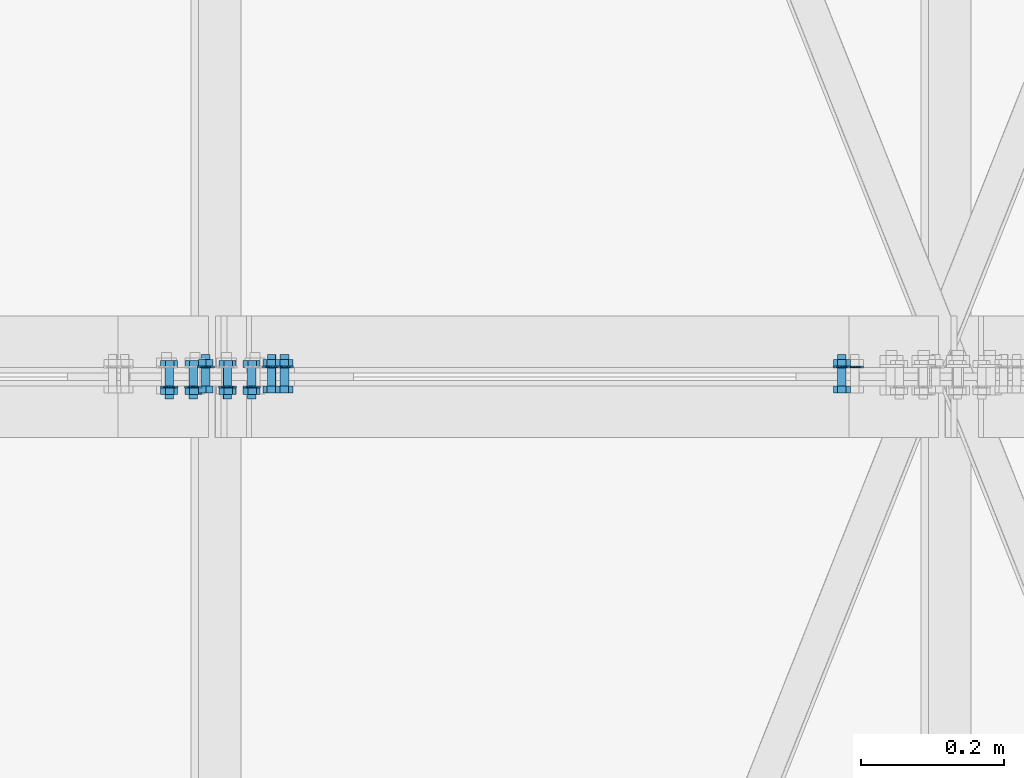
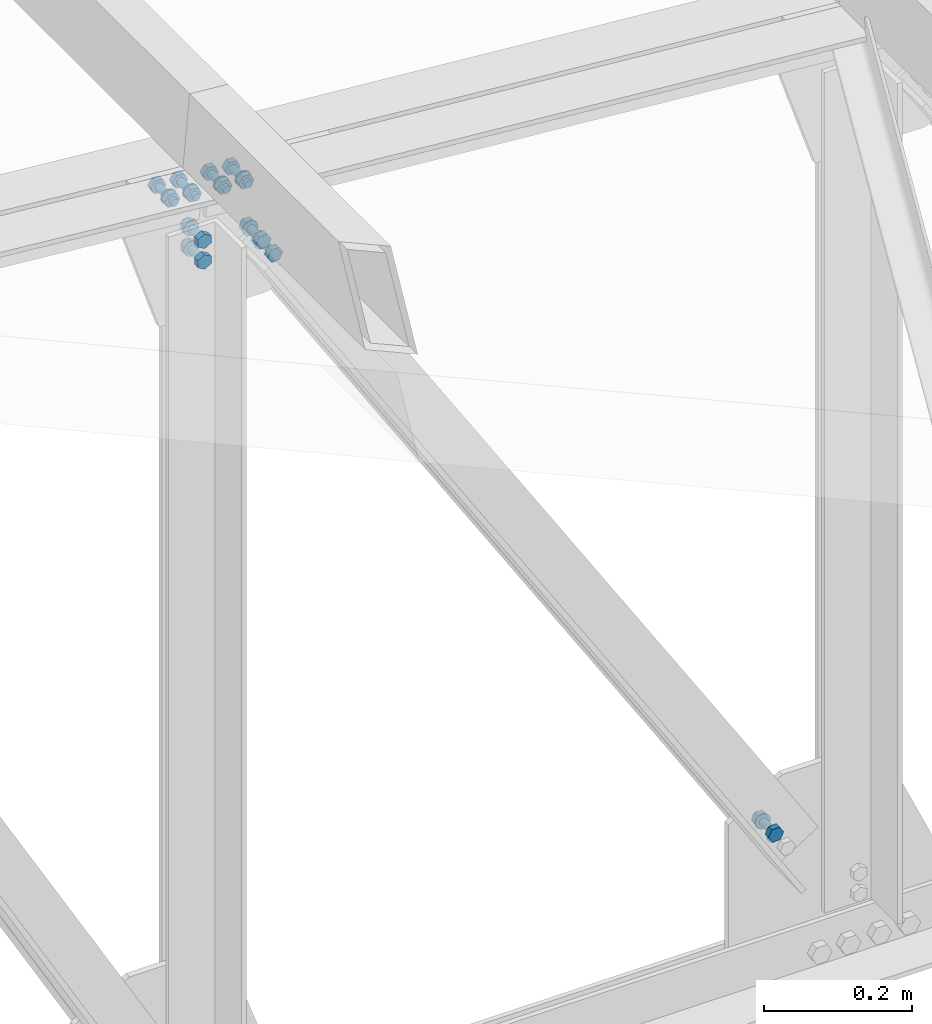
# One storey, part 133 of 251: 37 mechanical fasteners.
"""IFC4 building model written with IfcOpenShell, lengths in metres."""

from ifc_helpers import new_model, si_unit, frame, origin_with_axes, place, context, project, spatial, polyline, outline, extrude, type_object, element, save


model = new_model("IFC4")

# Units and contexts
model_context = context("Model", 3, precision=1e-05, world=origin_with_axes())
ifc_project = project(units=[si_unit("LENGTHUNIT", "METRE"), si_unit("AREAUNIT", "SQUARE_METRE"), si_unit("VOLUMEUNIT", "CUBIC_METRE"), si_unit("MASSUNIT", "GRAM", prefix="KILO"), si_unit("TIMEUNIT", "SECOND"), si_unit("PLANEANGLEUNIT", "RADIAN"), si_unit("SOLIDANGLEUNIT", "STERADIAN"), si_unit("THERMODYNAMICTEMPERATUREUNIT", "DEGREE_CELSIUS")], contexts=[model_context])

# Site, building, storey
placement_1 = place(None, origin_with_axes())
site = spatial("IfcSite", under=ifc_project, at=placement_1, Name="Italia", CompositionType="ELEMENT")
building = spatial("IfcBuilding", under=site, at=placement_1, Name="Deposito", CompositionType="ELEMENT")
storey = spatial("IfcBuildingStorey", under=building, at=placement_1, Name="Storey 0", CompositionType="ELEMENT", Elevation=0.0)

# Mechanical fasteners
mechanical_fastener_type_1 = type_object("IfcMechanicalFastenerType", Name="Reticolare 4", PredefinedType="BOLT")
placement_2 = place(placement_1, origin_with_axes())
mechanical_fastener_1_placement = place(placement_2, origin_with_axes())
element("IfcMechanicalFastener", 1, at=mechanical_fastener_1_placement, inside=storey, type_object=mechanical_fastener_type_1, Name="Reticolare 4", NominalDiameter=0.024, context=model_context, shape_type="SweptSolid", body=[
    extrude(outline(polyline([(0.0, 0.0), (-0.000409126, -0.00310564), (-0.00160789, -0.00600004), (-0.00351524, -0.00848532), (-0.00600052, -0.0103922), (-0.00889397, -0.011591), (-0.0120001, -0.0120001), (-0.0151062, -0.011591), (-0.0179996, -0.0103922), (-0.0204849, -0.00848532), (-0.0223923, -0.00600004), (-0.023591, -0.00310564), (-0.0240002, 0.0), (-0.023591, 0.00310564), (-0.0223923, 0.00600004), (-0.0204849, 0.00848532), (-0.0179996, 0.0103922), (-0.0151062, 0.011591), (-0.0120001, 0.0120001), (-0.00889397, 0.011591), (-0.00600052, 0.0103922), (-0.00351524, 0.00848532), (-0.00160789, 0.00600004), (-0.000409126, 0.00310564), (0.0, 0.0)])), frame((13.9145, 10.015, 5.20248), z_axis=(0.0, -1.0, 0.0), x_axis=(1.0, 0.0, 0.0)), (0.0, 0.0, 1.0), 0.00200081),
])
mechanical_fastener_type_2 = type_object("IfcMechanicalFastenerType", Name="Reticolare 4", PredefinedType="BOLT")
mechanical_fastener_2_placement = place(placement_2, origin_with_axes())
element("IfcMechanicalFastener", 2, at=mechanical_fastener_2_placement, inside=storey, type_object=mechanical_fastener_type_2, Name="Reticolare 4", NominalDiameter=0.0119994, context=model_context, shape_type="SweptSolid", body=[
    extrude(outline(polyline([(0.0, 0.0), (-0.00643444, 0.010129), (-0.000879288, 0.0207663), (0.0111094, 0.0212741), (0.0175438, 0.0111451), (0.0119896, 0.000508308), (0.0, 0.0)])), frame((13.8787, 9.987, 5.22054), z_axis=(0.0, -1.0, 0.0), x_axis=(1.0, 0.0, 0.0)), (0.0, 0.0, 1.0), 0.00960064),
])
mechanical_fastener_type_3 = type_object("IfcMechanicalFastenerType", Name="Reticolare 4", PredefinedType="BOLT")
mechanical_fastener_3_placement = place(placement_2, origin_with_axes())
element("IfcMechanicalFastener", 3, at=mechanical_fastener_3_placement, inside=storey, type_object=mechanical_fastener_type_3, Name="Reticolare 4", NominalDiameter=0.012, context=model_context, shape_type="SweptSolid", body=[
    extrude(outline(polyline([(0.0, 0.0), (-0.000204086, -0.00155306), (-0.000802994, -0.00299978), (-0.00175667, -0.00424242), (-0.00299931, -0.00519609), (-0.00444698, -0.00579548), (-0.00599957, -0.00600004), (-0.00755215, -0.00579548), (-0.00899982, -0.00519609), (-0.0102425, -0.00424242), (-0.0111961, -0.00299978), (-0.011795, -0.00155306), (-0.0119991, 0.0), (-0.011795, 0.00155306), (-0.0111961, 0.00299978), (-0.0102425, 0.00424242), (-0.00899982, 0.00519609), (-0.00755215, 0.00579548), (-0.00599957, 0.00600004), (-0.00444698, 0.00579548), (-0.00299931, 0.00519609), (-0.00175667, 0.00424242), (-0.000802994, 0.00299978), (-0.000204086, 0.00155306), (0.0, 0.0)])), frame((13.8903, 10.031, 5.23117), z_axis=(0.0, -1.0, 0.0), x_axis=(1.0, 0.0, 0.0)), (0.0, 0.0, 1.0), 0.0439997),
])
mechanical_fastener_type_4 = type_object("IfcMechanicalFastenerType", Name="Reticolare 4", PredefinedType="BOLT")
mechanical_fastener_4_placement = place(placement_2, origin_with_axes())
element("IfcMechanicalFastener", 4, at=mechanical_fastener_4_placement, inside=storey, type_object=mechanical_fastener_type_4, Name="Reticolare 4", NominalDiameter=0.0119994, context=model_context, shape_type="SweptSolid", body=[
    extrude(outline(polyline([(0.0, 0.0), (-0.00643444, 0.010129), (-0.000879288, 0.0207663), (0.0111094, 0.0212741), (0.0175438, 0.0111451), (0.0119896, 0.000508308), (0.0, 0.0)])), frame((13.8787, 10.0246, 5.22054), z_axis=(0.0, -1.0, 0.0), x_axis=(1.0, 0.0, 0.0)), (0.0, 0.0, 1.0), 0.00959969),
])
mechanical_fastener_type_5 = type_object("IfcMechanicalFastenerType", Name="Reticolare 4", PredefinedType="BOLT")
mechanical_fastener_5_placement = place(placement_2, origin_with_axes())
element("IfcMechanicalFastener", 5, at=mechanical_fastener_5_placement, inside=storey, type_object=mechanical_fastener_type_5, Name="Reticolare 4", NominalDiameter=0.024, context=model_context, shape_type="SweptSolid", body=[
    extrude(outline(polyline([(0.0, 0.0), (-0.000409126, -0.00310564), (-0.00160789, -0.00600004), (-0.00351524, -0.00848532), (-0.00600052, -0.0103922), (-0.00889397, -0.011591), (-0.0120001, -0.0120001), (-0.0151062, -0.011591), (-0.0179996, -0.0103922), (-0.0204849, -0.00848532), (-0.0223923, -0.00600004), (-0.023591, -0.00310564), (-0.0240002, 0.0), (-0.023591, 0.00310564), (-0.0223923, 0.00600004), (-0.0204849, 0.00848532), (-0.0179996, 0.0103922), (-0.0151062, 0.011591), (-0.0120001, 0.0120001), (-0.00889397, 0.011591), (-0.00600052, 0.0103922), (-0.00351524, 0.00848532), (-0.00160789, 0.00600004), (-0.000409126, 0.00310564), (0.0, 0.0)])), frame((13.8963, 10.015, 5.23117), z_axis=(0.0, -1.0, 0.0), x_axis=(1.0, 0.0, 0.0)), (0.0, 0.0, 1.0), 0.00200081),
])
mechanical_fastener_type_6 = type_object("IfcMechanicalFastenerType", Name="Reticolare 4", PredefinedType="BOLT")
mechanical_fastener_6_placement = place(placement_2, origin_with_axes())
element("IfcMechanicalFastener", 6, at=mechanical_fastener_6_placement, inside=storey, type_object=mechanical_fastener_type_6, Name="Reticolare 4", NominalDiameter=0.0119996, context=model_context, shape_type="SweptSolid", body=[
    extrude(outline(polyline([(0.0, 0.0), (0.0119572, 0.001019), (0.0188179, -0.00882626), (0.0137215, -0.0196905), (0.00176525, -0.0207095), (-0.00509548, -0.0108643), (0.0, 0.0)])), frame((13.0302, 10.013, 6.61092), z_axis=(0.0, 1.0, 0.0), x_axis=(-1.0, 0.0, 0.0)), (0.0, 0.0, 1.0), 0.00960064),
])
mechanical_fastener_type_7 = type_object("IfcMechanicalFastenerType", Name="Reticolare 4", PredefinedType="BOLT")
mechanical_fastener_7_placement = place(placement_2, origin_with_axes())
element("IfcMechanicalFastener", 7, at=mechanical_fastener_7_placement, inside=storey, type_object=mechanical_fastener_type_7, Name="Reticolare 4", NominalDiameter=0.012, context=model_context, shape_type="SweptSolid", body=[
    extrude(outline(polyline([(0.0, 0.0), (-0.000204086, -0.00155306), (-0.000802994, -0.00299978), (-0.00175667, -0.00424242), (-0.00299931, -0.00519609), (-0.00444698, -0.00579548), (-0.00599957, -0.00600004), (-0.00755215, -0.00579548), (-0.00899982, -0.00519609), (-0.0102425, -0.00424242), (-0.0111961, -0.00299978), (-0.011795, -0.00155306), (-0.0119991, 0.0), (-0.011795, 0.00155306), (-0.0111961, 0.00299978), (-0.0102425, 0.00424242), (-0.00899982, 0.00519609), (-0.00755215, 0.00579548), (-0.00599957, 0.00600004), (-0.00444698, 0.00579548), (-0.00299931, 0.00519609), (-0.00175667, 0.00424242), (-0.000802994, 0.00299978), (-0.000204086, 0.00155306), (0.0, 0.0)])), frame((13.0173, 9.969, 6.60108), z_axis=(0.0, 1.0, 0.0), x_axis=(-1.0, 0.0, 0.0)), (0.0, 0.0, 1.0), 0.0439997),
])
mechanical_fastener_type_8 = type_object("IfcMechanicalFastenerType", Name="Reticolare 4", PredefinedType="BOLT")
mechanical_fastener_8_placement = place(placement_2, origin_with_axes())
element("IfcMechanicalFastener", 8, at=mechanical_fastener_8_placement, inside=storey, type_object=mechanical_fastener_type_8, Name="Reticolare 4", NominalDiameter=0.0119996, context=model_context, shape_type="SweptSolid", body=[
    extrude(outline(polyline([(0.0, 0.0), (0.0119572, 0.001019), (0.0188179, -0.00882626), (0.0137215, -0.0196905), (0.00176525, -0.0207095), (-0.00509548, -0.0108643), (0.0, 0.0)])), frame((13.0302, 9.9754, 6.61092), z_axis=(0.0, 1.0, 0.0), x_axis=(-1.0, 0.0, 0.0)), (0.0, 0.0, 1.0), 0.00959969),
])
mechanical_fastener_type_9 = type_object("IfcMechanicalFastenerType", Name="Reticolare 4", PredefinedType="BOLT")
mechanical_fastener_9_placement = place(placement_2, origin_with_axes())
element("IfcMechanicalFastener", 9, at=mechanical_fastener_9_placement, inside=storey, type_object=mechanical_fastener_type_9, Name="Reticolare 4", NominalDiameter=0.024, context=model_context, shape_type="SweptSolid", body=[
    extrude(outline(polyline([(0.0, 0.0), (-0.000409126, -0.00310564), (-0.00160789, -0.00600004), (-0.00351524, -0.00848532), (-0.00600052, -0.0103922), (-0.00889397, -0.011591), (-0.0120001, -0.0120001), (-0.0151062, -0.011591), (-0.0179996, -0.0103922), (-0.0204849, -0.00848532), (-0.0223923, -0.00600004), (-0.023591, -0.00310564), (-0.0240002, 0.0), (-0.023591, 0.00310564), (-0.0223923, 0.00600004), (-0.0204849, 0.00848532), (-0.0179996, 0.0103922), (-0.0151062, 0.011591), (-0.0120001, 0.0120001), (-0.00889397, 0.011591), (-0.00600052, 0.0103922), (-0.00351524, 0.00848532), (-0.00160789, 0.00600004), (-0.000409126, 0.00310564), (0.0, 0.0)])), frame((13.0113, 9.985, 6.60108), z_axis=(0.0, 1.0, 0.0), x_axis=(-1.0, 0.0, 0.0)), (0.0, 0.0, 1.0), 0.00200081),
])
mechanical_fastener_type_10 = type_object("IfcMechanicalFastenerType", Name="Reticolare 4", PredefinedType="BOLT")
mechanical_fastener_10_placement = place(placement_2, origin_with_axes())
element("IfcMechanicalFastener", 10, at=mechanical_fastener_10_placement, inside=storey, type_object=mechanical_fastener_type_10, Name="Reticolare 4", NominalDiameter=0.0119996, context=model_context, shape_type="SweptSolid", body=[
    extrude(outline(polyline([(0.0, 0.0), (0.0119572, 0.001019), (0.0188179, -0.00882626), (0.0137215, -0.0196905), (0.00176525, -0.0207095), (-0.00509548, -0.0108643), (0.0, 0.0)])), frame((13.0641, 10.013, 6.60803), z_axis=(0.0, 1.0, 0.0), x_axis=(-1.0, 0.0, 0.0)), (0.0, 0.0, 1.0), 0.00960064),
])
mechanical_fastener_type_11 = type_object("IfcMechanicalFastenerType", Name="Reticolare 4", PredefinedType="BOLT")
mechanical_fastener_11_placement = place(placement_2, origin_with_axes())
element("IfcMechanicalFastener", 11, at=mechanical_fastener_11_placement, inside=storey, type_object=mechanical_fastener_type_11, Name="Reticolare 4", NominalDiameter=0.012, context=model_context, shape_type="SweptSolid", body=[
    extrude(outline(polyline([(0.0, 0.0), (-0.000204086, -0.00155306), (-0.000802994, -0.00299978), (-0.00175667, -0.00424242), (-0.00299931, -0.00519609), (-0.00444698, -0.00579548), (-0.00599957, -0.00600004), (-0.00755215, -0.00579548), (-0.00899982, -0.00519609), (-0.0102425, -0.00424242), (-0.0111961, -0.00299978), (-0.011795, -0.00155306), (-0.0119991, 0.0), (-0.011795, 0.00155306), (-0.0111961, 0.00299978), (-0.0102425, 0.00424242), (-0.00899982, 0.00519609), (-0.00755215, 0.00579548), (-0.00599957, 0.00600004), (-0.00444698, 0.00579548), (-0.00299931, 0.00519609), (-0.00175667, 0.00424242), (-0.000802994, 0.00299978), (-0.000204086, 0.00155306), (0.0, 0.0)])), frame((13.0512, 9.969, 6.59819), z_axis=(0.0, 1.0, 0.0), x_axis=(-1.0, 0.0, 0.0)), (0.0, 0.0, 1.0), 0.0439997),
])
mechanical_fastener_type_12 = type_object("IfcMechanicalFastenerType", Name="Reticolare 4", PredefinedType="BOLT")
mechanical_fastener_12_placement = place(placement_2, origin_with_axes())
element("IfcMechanicalFastener", 12, at=mechanical_fastener_12_placement, inside=storey, type_object=mechanical_fastener_type_12, Name="Reticolare 4", NominalDiameter=0.0119996, context=model_context, shape_type="SweptSolid", body=[
    extrude(outline(polyline([(0.0, 0.0), (0.0119572, 0.001019), (0.0188179, -0.00882626), (0.0137215, -0.0196905), (0.00176525, -0.0207095), (-0.00509548, -0.0108643), (0.0, 0.0)])), frame((13.0641, 9.9754, 6.60803), z_axis=(0.0, 1.0, 0.0), x_axis=(-1.0, 0.0, 0.0)), (0.0, 0.0, 1.0), 0.00959969),
])
mechanical_fastener_type_13 = type_object("IfcMechanicalFastenerType", Name="Reticolare 4", PredefinedType="BOLT")
mechanical_fastener_13_placement = place(placement_2, origin_with_axes())
element("IfcMechanicalFastener", 13, at=mechanical_fastener_13_placement, inside=storey, type_object=mechanical_fastener_type_13, Name="Reticolare 4", NominalDiameter=0.024, context=model_context, shape_type="SweptSolid", body=[
    extrude(outline(polyline([(0.0, 0.0), (-0.000409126, -0.00310564), (-0.00160789, -0.00600004), (-0.00351524, -0.00848532), (-0.00600052, -0.0103922), (-0.00889397, -0.011591), (-0.0120001, -0.0120001), (-0.0151062, -0.011591), (-0.0179996, -0.0103922), (-0.0204849, -0.00848532), (-0.0223923, -0.00600004), (-0.023591, -0.00310564), (-0.0240002, 0.0), (-0.023591, 0.00310564), (-0.0223923, 0.00600004), (-0.0204849, 0.00848532), (-0.0179996, 0.0103922), (-0.0151062, 0.011591), (-0.0120001, 0.0120001), (-0.00889397, 0.011591), (-0.00600052, 0.0103922), (-0.00351524, 0.00848532), (-0.00160789, 0.00600004), (-0.000409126, 0.00310564), (0.0, 0.0)])), frame((13.0452, 9.985, 6.59819), z_axis=(0.0, 1.0, 0.0), x_axis=(-1.0, 0.0, 0.0)), (0.0, 0.0, 1.0), 0.00200081),
])
mechanical_fastener_type_14 = type_object("IfcMechanicalFastenerType", Name="Reticolare 4", PredefinedType="BOLT")
mechanical_fastener_14_placement = place(placement_2, origin_with_axes())
element("IfcMechanicalFastener", 14, at=mechanical_fastener_14_placement, inside=storey, type_object=mechanical_fastener_type_14, Name="Reticolare 4", NominalDiameter=0.0119996, context=model_context, shape_type="SweptSolid", body=[
    extrude(outline(polyline([(0.0, 0.0), (0.0119524, 0.00107431), (0.018858, -0.00873947), (0.013813, -0.0196271), (0.00186157, -0.0207014), (-0.00504494, -0.0108881), (0.0, 0.0)])), frame((12.9824, 10.013, 6.61508), z_axis=(0.0, 1.0, 0.0), x_axis=(-1.0, 0.0, 0.0)), (0.0, 0.0, 1.0), 0.00960064),
])
mechanical_fastener_type_15 = type_object("IfcMechanicalFastenerType", Name="Reticolare 4", PredefinedType="BOLT")
mechanical_fastener_15_placement = place(placement_2, origin_with_axes())
element("IfcMechanicalFastener", 15, at=mechanical_fastener_15_placement, inside=storey, type_object=mechanical_fastener_type_15, Name="Reticolare 4", NominalDiameter=0.012, context=model_context, shape_type="SweptSolid", body=[
    extrude(outline(polyline([(0.0, 0.0), (-0.000204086, -0.00155306), (-0.000802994, -0.00299978), (-0.00175667, -0.00424242), (-0.00299931, -0.00519609), (-0.00444698, -0.00579548), (-0.00599957, -0.00600004), (-0.00755215, -0.00579548), (-0.00899982, -0.00519609), (-0.0102425, -0.00424242), (-0.0111961, -0.00299978), (-0.011795, -0.00155306), (-0.0119991, 0.0), (-0.011795, 0.00155306), (-0.0111961, 0.00299978), (-0.0102425, 0.00424242), (-0.00899982, 0.00519609), (-0.00755215, 0.00579548), (-0.00599957, 0.00600004), (-0.00444698, 0.00579548), (-0.00299931, 0.00519609), (-0.00175667, 0.00424242), (-0.000802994, 0.00299978), (-0.000204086, 0.00155306), (0.0, 0.0)])), frame((12.9694, 9.969, 6.60527), z_axis=(0.0, 1.0, 0.0), x_axis=(-1.0, 0.0, 0.0)), (0.0, 0.0, 1.0), 0.0439997),
])
mechanical_fastener_type_16 = type_object("IfcMechanicalFastenerType", Name="Reticolare 4", PredefinedType="BOLT")
mechanical_fastener_16_placement = place(placement_2, origin_with_axes())
element("IfcMechanicalFastener", 16, at=mechanical_fastener_16_placement, inside=storey, type_object=mechanical_fastener_type_16, Name="Reticolare 4", NominalDiameter=0.0119996, context=model_context, shape_type="SweptSolid", body=[
    extrude(outline(polyline([(0.0, 0.0), (0.0119524, 0.00107431), (0.018858, -0.00873947), (0.013813, -0.0196271), (0.00186157, -0.0207014), (-0.00504494, -0.0108881), (0.0, 0.0)])), frame((12.9824, 9.9754, 6.61508), z_axis=(0.0, 1.0, 0.0), x_axis=(-1.0, 0.0, 0.0)), (0.0, 0.0, 1.0), 0.00959969),
])
mechanical_fastener_type_17 = type_object("IfcMechanicalFastenerType", Name="Reticolare 4", PredefinedType="BOLT")
mechanical_fastener_17_placement = place(placement_2, origin_with_axes())
element("IfcMechanicalFastener", 17, at=mechanical_fastener_17_placement, inside=storey, type_object=mechanical_fastener_type_17, Name="Reticolare 4", NominalDiameter=0.024, context=model_context, shape_type="SweptSolid", body=[
    extrude(outline(polyline([(0.0, 0.0), (-0.000409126, -0.00310564), (-0.00160789, -0.00600004), (-0.00351524, -0.00848532), (-0.00600052, -0.0103922), (-0.00889397, -0.011591), (-0.0120001, -0.0120001), (-0.0151062, -0.011591), (-0.0179996, -0.0103922), (-0.0204849, -0.00848532), (-0.0223923, -0.00600004), (-0.023591, -0.00310564), (-0.0240002, 0.0), (-0.023591, 0.00310564), (-0.0223923, 0.00600004), (-0.0204849, 0.00848532), (-0.0179996, 0.0103922), (-0.0151062, 0.011591), (-0.0120001, 0.0120001), (-0.00889397, 0.011591), (-0.00600052, 0.0103922), (-0.00351524, 0.00848532), (-0.00160789, 0.00600004), (-0.000409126, 0.00310564), (0.0, 0.0)])), frame((12.9634, 9.985, 6.60527), z_axis=(0.0, 1.0, 0.0), x_axis=(-1.0, 0.0, 0.0)), (0.0, 0.0, 1.0), 0.00200081),
])
mechanical_fastener_type_18 = type_object("IfcMechanicalFastenerType", Name="Reticolare 4", PredefinedType="BOLT")
mechanical_fastener_18_placement = place(placement_2, origin_with_axes())
element("IfcMechanicalFastener", 18, at=mechanical_fastener_18_placement, inside=storey, type_object=mechanical_fastener_type_18, Name="Reticolare 4", NominalDiameter=0.0119996, context=model_context, shape_type="SweptSolid", body=[
    extrude(outline(polyline([(0.0, 0.0), (0.0119514, 0.00107479), (0.018858, -0.00873899), (0.0138121, -0.0196266), (0.00186062, -0.0207009), (-0.00504589, -0.0108876), (0.0, 0.0)])), frame((12.9485, 10.013, 6.61813), z_axis=(0.0, 1.0, 0.0), x_axis=(-1.0, 0.0, 0.0)), (0.0, 0.0, 1.0), 0.00960064),
])
mechanical_fastener_type_19 = type_object("IfcMechanicalFastenerType", Name="Reticolare 4", PredefinedType="BOLT")
mechanical_fastener_19_placement = place(placement_2, origin_with_axes())
element("IfcMechanicalFastener", 19, at=mechanical_fastener_19_placement, inside=storey, type_object=mechanical_fastener_type_19, Name="Reticolare 4", NominalDiameter=0.012, context=model_context, shape_type="SweptSolid", body=[
    extrude(outline(polyline([(0.0, 0.0), (-0.000204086, -0.00155306), (-0.000802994, -0.00299978), (-0.00175667, -0.00424242), (-0.00299931, -0.00519609), (-0.00444698, -0.00579548), (-0.00599957, -0.00600004), (-0.00755215, -0.00579548), (-0.00899982, -0.00519609), (-0.0102425, -0.00424242), (-0.0111961, -0.00299978), (-0.011795, -0.00155306), (-0.0119991, 0.0), (-0.011795, 0.00155306), (-0.0111961, 0.00299978), (-0.0102425, 0.00424242), (-0.00899982, 0.00519609), (-0.00755215, 0.00579548), (-0.00599957, 0.00600004), (-0.00444698, 0.00579548), (-0.00299931, 0.00519609), (-0.00175667, 0.00424242), (-0.000802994, 0.00299978), (-0.000204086, 0.00155306), (0.0, 0.0)])), frame((12.9356, 9.969, 6.60831), z_axis=(0.0, 1.0, 0.0), x_axis=(-1.0, 0.0, 0.0)), (0.0, 0.0, 1.0), 0.0439997),
])
mechanical_fastener_type_20 = type_object("IfcMechanicalFastenerType", Name="Reticolare 4", PredefinedType="BOLT")
mechanical_fastener_20_placement = place(placement_2, origin_with_axes())
element("IfcMechanicalFastener", 20, at=mechanical_fastener_20_placement, inside=storey, type_object=mechanical_fastener_type_20, Name="Reticolare 4", NominalDiameter=0.0119996, context=model_context, shape_type="SweptSolid", body=[
    extrude(outline(polyline([(0.0, 0.0), (0.0119514, 0.00107479), (0.018858, -0.00873899), (0.0138121, -0.0196266), (0.00186062, -0.0207009), (-0.00504589, -0.0108876), (0.0, 0.0)])), frame((12.9485, 9.9754, 6.61813), z_axis=(0.0, 1.0, 0.0), x_axis=(-1.0, 0.0, 0.0)), (0.0, 0.0, 1.0), 0.00959969),
])
mechanical_fastener_type_21 = type_object("IfcMechanicalFastenerType", Name="Reticolare 4", PredefinedType="BOLT")
mechanical_fastener_21_placement = place(placement_2, origin_with_axes())
element("IfcMechanicalFastener", 21, at=mechanical_fastener_21_placement, inside=storey, type_object=mechanical_fastener_type_21, Name="Reticolare 4", NominalDiameter=0.024, context=model_context, shape_type="SweptSolid", body=[
    extrude(outline(polyline([(0.0, 0.0), (-0.000409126, -0.00310564), (-0.00160789, -0.00600004), (-0.00351524, -0.00848532), (-0.00600052, -0.0103922), (-0.00889397, -0.011591), (-0.0120001, -0.0120001), (-0.0151062, -0.011591), (-0.0179996, -0.0103922), (-0.0204849, -0.00848532), (-0.0223923, -0.00600004), (-0.023591, -0.00310564), (-0.0240002, 0.0), (-0.023591, 0.00310564), (-0.0223923, 0.00600004), (-0.0204849, 0.00848532), (-0.0179996, 0.0103922), (-0.0151062, 0.011591), (-0.0120001, 0.0120001), (-0.00889397, 0.011591), (-0.00600052, 0.0103922), (-0.00351524, 0.00848532), (-0.00160789, 0.00600004), (-0.000409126, 0.00310564), (0.0, 0.0)])), frame((12.9296, 9.985, 6.60831), z_axis=(0.0, 1.0, 0.0), x_axis=(-1.0, 0.0, 0.0)), (0.0, 0.0, 1.0), 0.00200081),
])
mechanical_fastener_type_22 = type_object("IfcMechanicalFastenerType", Name="Reticolare 4", PredefinedType="BOLT")
mechanical_fastener_22_placement = place(placement_2, origin_with_axes())
element("IfcMechanicalFastener", 22, at=mechanical_fastener_22_placement, inside=storey, type_object=mechanical_fastener_type_22, Name="Reticolare 4", NominalDiameter=0.0119999, context=model_context, shape_type="SweptSolid", body=[
    extrude(outline(polyline([(0.0, 0.0), (0.0, -0.0120001), (-0.0103922, -0.0180001), (-0.0207844, -0.0120001), (-0.0207844, 0.0), (-0.0103922, 0.00600004), (0.0, 0.0)])), frame((13.0034, 9.987, 6.52739), z_axis=(0.0, -1.0, 0.0), x_axis=(1.0, 0.0, 0.0)), (0.0, 0.0, 1.0), 0.00960064),
])
mechanical_fastener_type_23 = type_object("IfcMechanicalFastenerType", Name="Reticolare 4", PredefinedType="BOLT")
mechanical_fastener_23_placement = place(placement_2, origin_with_axes())
element("IfcMechanicalFastener", 23, at=mechanical_fastener_23_placement, inside=storey, type_object=mechanical_fastener_type_23, Name="Reticolare 4", NominalDiameter=0.012, context=model_context, shape_type="SweptSolid", body=[
    extrude(outline(polyline([(0.0, 0.0), (-0.000204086, -0.00155306), (-0.000802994, -0.00299978), (-0.00175667, -0.00424242), (-0.00299931, -0.00519609), (-0.00444698, -0.00579548), (-0.00599957, -0.00600004), (-0.00755215, -0.00579548), (-0.00899982, -0.00519609), (-0.0102425, -0.00424242), (-0.0111961, -0.00299978), (-0.011795, -0.00155306), (-0.0119991, 0.0), (-0.011795, 0.00155306), (-0.0111961, 0.00299978), (-0.0102425, 0.00424242), (-0.00899982, 0.00519609), (-0.00755215, 0.00579548), (-0.00599957, 0.00600004), (-0.00444698, 0.00579548), (-0.00299931, 0.00519609), (-0.00175667, 0.00424242), (-0.000802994, 0.00299978), (-0.000204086, 0.00155306), (0.0, 0.0)])), frame((12.999, 10.031, 6.52139), z_axis=(0.0, -1.0, 0.0), x_axis=(1.0, 0.0, 0.0)), (0.0, 0.0, 1.0), 0.0439997),
])
mechanical_fastener_type_24 = type_object("IfcMechanicalFastenerType", Name="Reticolare 4", PredefinedType="BOLT")
mechanical_fastener_24_placement = place(placement_2, origin_with_axes())
element("IfcMechanicalFastener", 24, at=mechanical_fastener_24_placement, inside=storey, type_object=mechanical_fastener_type_24, Name="Reticolare 4", NominalDiameter=0.0119999, context=model_context, shape_type="SweptSolid", body=[
    extrude(outline(polyline([(0.0, 0.0), (0.0, -0.0120001), (-0.0103922, -0.0180001), (-0.0207844, -0.0120001), (-0.0207844, 0.0), (-0.0103922, 0.00600004), (0.0, 0.0)])), frame((13.0034, 10.0246, 6.52739), z_axis=(0.0, -1.0, 0.0), x_axis=(1.0, 0.0, 0.0)), (0.0, 0.0, 1.0), 0.00959969),
])
mechanical_fastener_type_25 = type_object("IfcMechanicalFastenerType", Name="Reticolare 4", PredefinedType="BOLT")
mechanical_fastener_25_placement = place(placement_2, origin_with_axes())
element("IfcMechanicalFastener", 25, at=mechanical_fastener_25_placement, inside=storey, type_object=mechanical_fastener_type_25, Name="Reticolare 4", NominalDiameter=0.024, context=model_context, shape_type="SweptSolid", body=[
    extrude(outline(polyline([(0.0, 0.0), (-0.000409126, -0.00310564), (-0.00160789, -0.00600004), (-0.00351524, -0.00848532), (-0.00600052, -0.0103922), (-0.00889397, -0.011591), (-0.0120001, -0.0120001), (-0.0151062, -0.011591), (-0.0179996, -0.0103922), (-0.0204849, -0.00848532), (-0.0223923, -0.00600004), (-0.023591, -0.00310564), (-0.0240002, 0.0), (-0.023591, 0.00310564), (-0.0223923, 0.00600004), (-0.0204849, 0.00848532), (-0.0179996, 0.0103922), (-0.0151062, 0.011591), (-0.0120001, 0.0120001), (-0.00889397, 0.011591), (-0.00600052, 0.0103922), (-0.00351524, 0.00848532), (-0.00160789, 0.00600004), (-0.000409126, 0.00310564), (0.0, 0.0)])), frame((13.005, 10.015, 6.52139), z_axis=(0.0, -1.0, 0.0), x_axis=(1.0, 0.0, 0.0)), (0.0, 0.0, 1.0), 0.00200081),
])
mechanical_fastener_type_26 = type_object("IfcMechanicalFastenerType", Name="Reticolare 4", PredefinedType="BOLT")
mechanical_fastener_26_placement = place(placement_2, origin_with_axes())
element("IfcMechanicalFastener", 26, at=mechanical_fastener_26_placement, inside=storey, type_object=mechanical_fastener_type_26, Name="Reticolare 4", NominalDiameter=0.0119999, context=model_context, shape_type="SweptSolid", body=[
    extrude(outline(polyline([(0.0, 0.0), (0.0, -0.0120001), (-0.0103922, -0.0180001), (-0.0207844, -0.0120001), (-0.0207844, 0.0), (-0.0103922, 0.00600004), (0.0, 0.0)])), frame((13.0034, 9.987, 6.49339), z_axis=(0.0, -1.0, 0.0), x_axis=(1.0, 0.0, 0.0)), (0.0, 0.0, 1.0), 0.00960064),
])
mechanical_fastener_type_27 = type_object("IfcMechanicalFastenerType", Name="Reticolare 4", PredefinedType="BOLT")
mechanical_fastener_27_placement = place(placement_2, origin_with_axes())
element("IfcMechanicalFastener", 27, at=mechanical_fastener_27_placement, inside=storey, type_object=mechanical_fastener_type_27, Name="Reticolare 4", NominalDiameter=0.012, context=model_context, shape_type="SweptSolid", body=[
    extrude(outline(polyline([(0.0, 0.0), (-0.000204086, -0.00155306), (-0.000802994, -0.00299978), (-0.00175667, -0.00424242), (-0.00299931, -0.00519609), (-0.00444698, -0.00579548), (-0.00599957, -0.00600004), (-0.00755215, -0.00579548), (-0.00899982, -0.00519609), (-0.0102425, -0.00424242), (-0.0111961, -0.00299978), (-0.011795, -0.00155306), (-0.0119991, 0.0), (-0.011795, 0.00155306), (-0.0111961, 0.00299978), (-0.0102425, 0.00424242), (-0.00899982, 0.00519609), (-0.00755215, 0.00579548), (-0.00599957, 0.00600004), (-0.00444698, 0.00579548), (-0.00299931, 0.00519609), (-0.00175667, 0.00424242), (-0.000802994, 0.00299978), (-0.000204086, 0.00155306), (0.0, 0.0)])), frame((12.999, 10.031, 6.48739), z_axis=(0.0, -1.0, 0.0), x_axis=(1.0, 0.0, 0.0)), (0.0, 0.0, 1.0), 0.0439997),
])
mechanical_fastener_type_28 = type_object("IfcMechanicalFastenerType", Name="Reticolare 4", PredefinedType="BOLT")
mechanical_fastener_28_placement = place(placement_2, origin_with_axes())
element("IfcMechanicalFastener", 28, at=mechanical_fastener_28_placement, inside=storey, type_object=mechanical_fastener_type_28, Name="Reticolare 4", NominalDiameter=0.0119999, context=model_context, shape_type="SweptSolid", body=[
    extrude(outline(polyline([(0.0, 0.0), (0.0, -0.0120001), (-0.0103922, -0.0180001), (-0.0207844, -0.0120001), (-0.0207844, 0.0), (-0.0103922, 0.00600004), (0.0, 0.0)])), frame((13.0034, 10.0246, 6.49339), z_axis=(0.0, -1.0, 0.0), x_axis=(1.0, 0.0, 0.0)), (0.0, 0.0, 1.0), 0.00959969),
])
mechanical_fastener_type_29 = type_object("IfcMechanicalFastenerType", Name="Reticolare 4", PredefinedType="BOLT")
mechanical_fastener_29_placement = place(placement_2, origin_with_axes())
element("IfcMechanicalFastener", 29, at=mechanical_fastener_29_placement, inside=storey, type_object=mechanical_fastener_type_29, Name="Reticolare 4", NominalDiameter=0.024, context=model_context, shape_type="SweptSolid", body=[
    extrude(outline(polyline([(0.0, 0.0), (-0.000409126, -0.00310564), (-0.00160789, -0.00600004), (-0.00351524, -0.00848532), (-0.00600052, -0.0103922), (-0.00889397, -0.011591), (-0.0120001, -0.0120001), (-0.0151062, -0.011591), (-0.0179996, -0.0103922), (-0.0204849, -0.00848532), (-0.0223923, -0.00600004), (-0.023591, -0.00310564), (-0.0240002, 0.0), (-0.023591, 0.00310564), (-0.0223923, 0.00600004), (-0.0204849, 0.00848532), (-0.0179996, 0.0103922), (-0.0151062, 0.011591), (-0.0120001, 0.0120001), (-0.00889397, 0.011591), (-0.00600052, 0.0103922), (-0.00351524, 0.00848532), (-0.00160789, 0.00600004), (-0.000409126, 0.00310564), (0.0, 0.0)])), frame((13.005, 10.015, 6.48739), z_axis=(0.0, -1.0, 0.0), x_axis=(1.0, 0.0, 0.0)), (0.0, 0.0, 1.0), 0.00200081),
])
mechanical_fastener_type_30 = type_object("IfcMechanicalFastenerType", Name="Reticolare 4", PredefinedType="BOLT")
mechanical_fastener_30_placement = place(placement_2, origin_with_axes())
element("IfcMechanicalFastener", 30, at=mechanical_fastener_30_placement, inside=storey, type_object=mechanical_fastener_type_30, Name="Reticolare 4", NominalDiameter=0.0119996, context=model_context, shape_type="SweptSolid", body=[
    extrude(outline(polyline([(0.0, 0.0), (-0.00643444, 0.010129), (-0.000880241, 0.0207658), (0.0111094, 0.0212741), (0.0175438, 0.0111451), (0.0119896, 0.000507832), (0.0, 0.0)])), frame((13.0795, 9.987, 6.47855), z_axis=(0.0, -1.0, 0.0), x_axis=(1.0, 0.0, 0.0)), (0.0, 0.0, 1.0), 0.00960064),
])
mechanical_fastener_type_31 = type_object("IfcMechanicalFastenerType", Name="Reticolare 4", PredefinedType="BOLT")
mechanical_fastener_31_placement = place(placement_2, origin_with_axes())
element("IfcMechanicalFastener", 31, at=mechanical_fastener_31_placement, inside=storey, type_object=mechanical_fastener_type_31, Name="Reticolare 4", NominalDiameter=0.012, context=model_context, shape_type="SweptSolid", body=[
    extrude(outline(polyline([(0.0, 0.0), (-0.000204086, -0.00155306), (-0.000802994, -0.00299978), (-0.00175667, -0.00424242), (-0.00299931, -0.00519609), (-0.00444698, -0.00579548), (-0.00599957, -0.00600004), (-0.00755215, -0.00579548), (-0.00899982, -0.00519609), (-0.0102425, -0.00424242), (-0.0111961, -0.00299978), (-0.011795, -0.00155306), (-0.0119991, 0.0), (-0.011795, 0.00155306), (-0.0111961, 0.00299978), (-0.0102425, 0.00424242), (-0.00899982, 0.00519609), (-0.00755215, 0.00579548), (-0.00599957, 0.00600004), (-0.00444698, 0.00579548), (-0.00299931, 0.00519609), (-0.00175667, 0.00424242), (-0.000802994, 0.00299978), (-0.000204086, 0.00155306), (0.0, 0.0)])), frame((13.0911, 10.031, 6.48919), z_axis=(0.0, -1.0, 0.0), x_axis=(1.0, 0.0, 0.0)), (0.0, 0.0, 1.0), 0.0439997),
])
mechanical_fastener_type_32 = type_object("IfcMechanicalFastenerType", Name="Reticolare 4", PredefinedType="BOLT")
mechanical_fastener_32_placement = place(placement_2, origin_with_axes())
element("IfcMechanicalFastener", 32, at=mechanical_fastener_32_placement, inside=storey, type_object=mechanical_fastener_type_32, Name="Reticolare 4", NominalDiameter=0.0119996, context=model_context, shape_type="SweptSolid", body=[
    extrude(outline(polyline([(0.0, 0.0), (-0.00643444, 0.010129), (-0.000880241, 0.0207658), (0.0111094, 0.0212741), (0.0175438, 0.0111451), (0.0119896, 0.000507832), (0.0, 0.0)])), frame((13.0795, 10.0246, 6.47855), z_axis=(0.0, -1.0, 0.0), x_axis=(1.0, 0.0, 0.0)), (0.0, 0.0, 1.0), 0.00959969),
])
mechanical_fastener_type_33 = type_object("IfcMechanicalFastenerType", Name="Reticolare 4", PredefinedType="BOLT")
mechanical_fastener_33_placement = place(placement_2, origin_with_axes())
element("IfcMechanicalFastener", 33, at=mechanical_fastener_33_placement, inside=storey, type_object=mechanical_fastener_type_33, Name="Reticolare 4", NominalDiameter=0.024, context=model_context, shape_type="SweptSolid", body=[
    extrude(outline(polyline([(0.0, 0.0), (-0.000409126, -0.00310564), (-0.00160789, -0.00600004), (-0.00351524, -0.00848532), (-0.00600052, -0.0103922), (-0.00889397, -0.011591), (-0.0120001, -0.0120001), (-0.0151062, -0.011591), (-0.0179996, -0.0103922), (-0.0204849, -0.00848532), (-0.0223923, -0.00600004), (-0.023591, -0.00310564), (-0.0240002, 0.0), (-0.023591, 0.00310564), (-0.0223923, 0.00600004), (-0.0204849, 0.00848532), (-0.0179996, 0.0103922), (-0.0151062, 0.011591), (-0.0120001, 0.0120001), (-0.00889397, 0.011591), (-0.00600052, 0.0103922), (-0.00351524, 0.00848532), (-0.00160789, 0.00600004), (-0.000409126, 0.00310564), (0.0, 0.0)])), frame((13.0971, 10.015, 6.48919), z_axis=(0.0, -1.0, 0.0), x_axis=(1.0, 0.0, 0.0)), (0.0, 0.0, 1.0), 0.00200081),
])
mechanical_fastener_type_34 = type_object("IfcMechanicalFastenerType", Name="Reticolare 4", PredefinedType="BOLT")
mechanical_fastener_34_placement = place(placement_2, origin_with_axes())
element("IfcMechanicalFastener", 34, at=mechanical_fastener_34_placement, inside=storey, type_object=mechanical_fastener_type_34, Name="Reticolare 4", NominalDiameter=0.0119996, context=model_context, shape_type="SweptSolid", body=[
    extrude(outline(polyline([(0.0, 0.0), (-0.00643444, 0.010129), (-0.000880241, 0.0207663), (0.0111094, 0.0212741), (0.0175438, 0.0111451), (0.0119896, 0.000508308), (0.0, 0.0)])), frame((13.0978, 9.987, 6.44985), z_axis=(0.0, -1.0, 0.0), x_axis=(1.0, 0.0, 0.0)), (0.0, 0.0, 1.0), 0.00960064),
])
mechanical_fastener_type_35 = type_object("IfcMechanicalFastenerType", Name="Reticolare 4", PredefinedType="BOLT")
mechanical_fastener_35_placement = place(placement_2, origin_with_axes())
element("IfcMechanicalFastener", 35, at=mechanical_fastener_35_placement, inside=storey, type_object=mechanical_fastener_type_35, Name="Reticolare 4", NominalDiameter=0.012, context=model_context, shape_type="SweptSolid", body=[
    extrude(outline(polyline([(0.0, 0.0), (-0.000204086, -0.00155306), (-0.000802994, -0.00299978), (-0.00175667, -0.00424242), (-0.00299931, -0.00519609), (-0.00444698, -0.00579548), (-0.00599957, -0.00600004), (-0.00755215, -0.00579548), (-0.00899982, -0.00519609), (-0.0102425, -0.00424242), (-0.0111961, -0.00299978), (-0.011795, -0.00155306), (-0.0119991, 0.0), (-0.011795, 0.00155306), (-0.0111961, 0.00299978), (-0.0102425, 0.00424242), (-0.00899982, 0.00519609), (-0.00755215, 0.00579548), (-0.00599957, 0.00600004), (-0.00444698, 0.00579548), (-0.00299931, 0.00519609), (-0.00175667, 0.00424242), (-0.000802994, 0.00299978), (-0.000204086, 0.00155306), (0.0, 0.0)])), frame((13.1093, 10.031, 6.46049), z_axis=(0.0, -1.0, 0.0), x_axis=(1.0, 0.0, 0.0)), (0.0, 0.0, 1.0), 0.0439997),
])
mechanical_fastener_type_36 = type_object("IfcMechanicalFastenerType", Name="Reticolare 4", PredefinedType="BOLT")
mechanical_fastener_36_placement = place(placement_2, origin_with_axes())
element("IfcMechanicalFastener", 36, at=mechanical_fastener_36_placement, inside=storey, type_object=mechanical_fastener_type_36, Name="Reticolare 4", NominalDiameter=0.0119996, context=model_context, shape_type="SweptSolid", body=[
    extrude(outline(polyline([(0.0, 0.0), (-0.00643444, 0.010129), (-0.000880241, 0.0207663), (0.0111094, 0.0212741), (0.0175438, 0.0111451), (0.0119896, 0.000508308), (0.0, 0.0)])), frame((13.0978, 10.0246, 6.44985), z_axis=(0.0, -1.0, 0.0), x_axis=(1.0, 0.0, 0.0)), (0.0, 0.0, 1.0), 0.00959969),
])
mechanical_fastener_type_37 = type_object("IfcMechanicalFastenerType", Name="Reticolare 4", PredefinedType="BOLT")
mechanical_fastener_37_placement = place(placement_2, origin_with_axes())
element("IfcMechanicalFastener", 37, at=mechanical_fastener_37_placement, inside=storey, type_object=mechanical_fastener_type_37, Name="Reticolare 4", NominalDiameter=0.024, context=model_context, shape_type="SweptSolid", body=[
    extrude(outline(polyline([(0.0, 0.0), (-0.000409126, -0.00310564), (-0.00160789, -0.00600004), (-0.00351524, -0.00848532), (-0.00600052, -0.0103922), (-0.00889397, -0.011591), (-0.0120001, -0.0120001), (-0.0151062, -0.011591), (-0.0179996, -0.0103922), (-0.0204849, -0.00848532), (-0.0223923, -0.00600004), (-0.023591, -0.00310564), (-0.0240002, 0.0), (-0.023591, 0.00310564), (-0.0223923, 0.00600004), (-0.0204849, 0.00848532), (-0.0179996, 0.0103922), (-0.0151062, 0.011591), (-0.0120001, 0.0120001), (-0.00889397, 0.011591), (-0.00600052, 0.0103922), (-0.00351524, 0.00848532), (-0.00160789, 0.00600004), (-0.000409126, 0.00310564), (0.0, 0.0)])), frame((13.1153, 10.015, 6.46049), z_axis=(0.0, -1.0, 0.0), x_axis=(1.0, 0.0, 0.0)), (0.0, 0.0, 1.0), 0.00200081),
])

save(model, "model.ifc")
